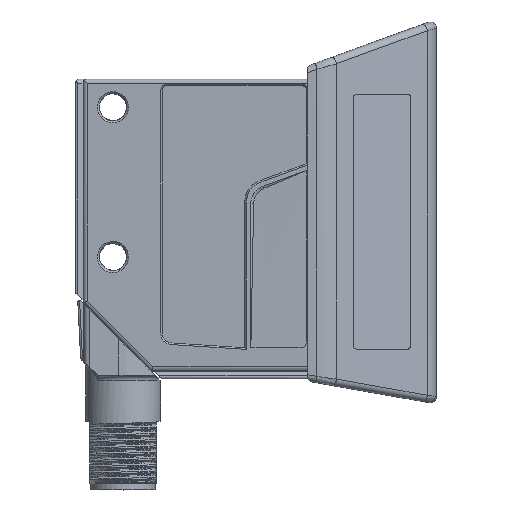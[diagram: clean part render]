
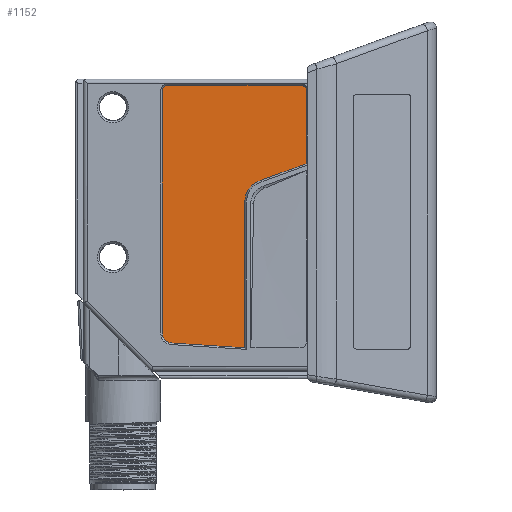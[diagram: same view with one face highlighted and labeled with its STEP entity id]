
A CAD part, top view. The second image highlights one B-rep face of the part: STEP entity #1152.
In plain terms, the highlighted planar face has unit normal (0, 0, 1).
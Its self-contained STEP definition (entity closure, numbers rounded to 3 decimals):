
#720=FACE_OUTER_BOUND('',#2462,.T.);
#1152=ADVANCED_FACE('',(#720),#1430,.F.);
#1430=PLANE('',#6470);
#1565=LINE('',#8587,#1929);
#1569=LINE('',#8595,#1933);
#1671=LINE('',#10219,#2035);
#1675=LINE('',#10313,#2039);
#1677=LINE('',#10347,#2041);
#1929=VECTOR('',#6883,1.);
#1933=VECTOR('',#6889,1.);
#2035=VECTOR('',#7221,1.);
#2039=VECTOR('',#7227,1.);
#2041=VECTOR('',#7231,1.);
#2462=EDGE_LOOP('',(#3291,#3292,#3293,#3294,#3295,#3296,#3297,#3298,#3299,
#3300));
#3291=ORIENTED_EDGE('',*,*,#5399,.T.);
#3292=ORIENTED_EDGE('',*,*,#5402,.T.);
#3293=ORIENTED_EDGE('',*,*,#5404,.T.);
#3294=ORIENTED_EDGE('',*,*,#5406,.T.);
#3295=ORIENTED_EDGE('',*,*,#5407,.T.);
#3296=ORIENTED_EDGE('',*,*,#5225,.T.);
#3297=ORIENTED_EDGE('',*,*,#5229,.T.);
#3298=ORIENTED_EDGE('',*,*,#5232,.T.);
#3299=ORIENTED_EDGE('',*,*,#5409,.T.);
#3300=ORIENTED_EDGE('',*,*,#5410,.T.);
#4601=VERTEX_POINT('',#8586);
#4602=VERTEX_POINT('',#8588);
#4604=VERTEX_POINT('',#8594);
#4605=VERTEX_POINT('',#8604);
#4705=VERTEX_POINT('',#10218);
#4706=VERTEX_POINT('',#10220);
#4707=VERTEX_POINT('',#10224);
#4708=VERTEX_POINT('',#10274);
#4709=VERTEX_POINT('',#10312);
#4710=VERTEX_POINT('',#10346);
#5225=EDGE_CURVE('',#4602,#4601,#1565,.T.);
#5229=EDGE_CURVE('',#4601,#4604,#1569,.T.);
#5232=EDGE_CURVE('',#4604,#4605,#6012,.T.);
#5399=EDGE_CURVE('',#4706,#4705,#1671,.T.);
#5402=EDGE_CURVE('',#4705,#4707,#6035,.T.);
#5404=EDGE_CURVE('',#4707,#4708,#6037,.T.);
#5406=EDGE_CURVE('',#4708,#4709,#1675,.T.);
#5407=EDGE_CURVE('',#4709,#4602,#6038,.T.);
#5409=EDGE_CURVE('',#4605,#4710,#1677,.T.);
#5410=EDGE_CURVE('',#4710,#4706,#6039,.T.);
#6012=B_SPLINE_CURVE_WITH_KNOTS('',3,(#8605,#8606,#8607,#8608,#8609,#8610),
 .UNSPECIFIED.,.F.,.F.,(4,2,4),(0.,0.5,1.),.UNSPECIFIED.);
#6035=B_SPLINE_CURVE_WITH_KNOTS('',3,(#10225,#10226,#10227,#10228,#10229,
#10230,#10231,#10232,#10233,#10234,#10235,#10236,#10237,#10238),
 .UNSPECIFIED.,.F.,.F.,(4,2,2,2,2,2,4),(0.,0.25,0.375,0.5,0.625,0.75,1.),
 .UNSPECIFIED.);
#6037=B_SPLINE_CURVE_WITH_KNOTS('',3,(#10275,#10276,#10277,#10278,#10279,
#10280,#10281,#10282),.UNSPECIFIED.,.F.,.F.,(4,2,2,4),(0.,0.5,0.75,1.),
 .UNSPECIFIED.);
#6038=B_SPLINE_CURVE_WITH_KNOTS('',3,(#10315,#10316,#10317,#10318,#10319,
#10320,#10321,#10322,#10323,#10324),.UNSPECIFIED.,.F.,.F.,(4,2,2,2,4),(0.,
0.25,0.5,0.75,1.),.UNSPECIFIED.);
#6039=B_SPLINE_CURVE_WITH_KNOTS('',3,(#10349,#10350,#10351,#10352,#10353,
#10354),.UNSPECIFIED.,.F.,.F.,(4,2,4),(0.,0.5,1.),.UNSPECIFIED.);
#6470=AXIS2_PLACEMENT_3D('',#10367,#7234,#7235);
#6883=DIRECTION('',(0.94,0.342,0.));
#6889=DIRECTION('',(0.,1.,0.));
#7221=DIRECTION('',(0.,-1.,0.));
#7227=DIRECTION('',(0.,1.,0.));
#7231=DIRECTION('',(-1.,0.,0.));
#7234=DIRECTION('',(0.,0.,-1.));
#7235=DIRECTION('',(-1.,0.,0.));
#8586=CARTESIAN_POINT('',(1.2,10.449,7.2));
#8587=CARTESIAN_POINT('',(-11.758,5.725,7.2));
#8588=CARTESIAN_POINT('',(-5.669,7.945,7.2));
#8594=CARTESIAN_POINT('',(1.2,22.144,7.2));
#8595=CARTESIAN_POINT('',(1.2,1.849,7.2));
#8604=CARTESIAN_POINT('',(0.362,23.,7.2));
#8605=CARTESIAN_POINT('',(1.2,22.144,7.2));
#8606=CARTESIAN_POINT('',(1.2,22.38,7.2));
#8607=CARTESIAN_POINT('',(1.106,22.594,7.2));
#8608=CARTESIAN_POINT('',(0.803,22.904,7.2));
#8609=CARTESIAN_POINT('',(0.593,23.,7.2));
#8610=CARTESIAN_POINT('',(0.362,23.,7.2));
#10218=CARTESIAN_POINT('',(-21.89,-16.449,7.2));
#10219=CARTESIAN_POINT('',(-21.89,1.849,7.2));
#10220=CARTESIAN_POINT('',(-21.89,22.144,7.2));
#10224=CARTESIAN_POINT('',(-20.21,-18.293,7.2));
#10225=CARTESIAN_POINT('',(-21.89,-16.449,7.2));
#10226=CARTESIAN_POINT('',(-21.89,-16.768,7.2));
#10227=CARTESIAN_POINT('',(-21.863,-17.036,7.2));
#10228=CARTESIAN_POINT('',(-21.774,-17.373,7.2));
#10229=CARTESIAN_POINT('',(-21.736,-17.474,7.2));
#10230=CARTESIAN_POINT('',(-21.643,-17.657,7.2));
#10231=CARTESIAN_POINT('',(-21.587,-17.738,7.2));
#10232=CARTESIAN_POINT('',(-21.455,-17.882,7.2));
#10233=CARTESIAN_POINT('',(-21.38,-17.945,7.2));
#10234=CARTESIAN_POINT('',(-21.207,-18.055,7.2));
#10235=CARTESIAN_POINT('',(-21.111,-18.101,7.2));
#10236=CARTESIAN_POINT('',(-20.786,-18.219,7.2));
#10237=CARTESIAN_POINT('',(-20.524,-18.267,7.2));
#10238=CARTESIAN_POINT('',(-20.21,-18.293,7.2));
#10274=CARTESIAN_POINT('',(-8.713,-19.05,7.2));
#10275=CARTESIAN_POINT('',(-20.21,-18.293,7.2));
#10276=CARTESIAN_POINT('',(-20.167,-18.297,7.2));
#10277=CARTESIAN_POINT('',(-18.023,-18.48,7.2));
#10278=CARTESIAN_POINT('',(-14.276,-18.758,7.2));
#10279=CARTESIAN_POINT('',(-12.938,-18.851,7.2));
#10280=CARTESIAN_POINT('',(-10.522,-18.994,7.2));
#10281=CARTESIAN_POINT('',(-9.444,-19.044,7.2));
#10282=CARTESIAN_POINT('',(-8.713,-19.05,7.2));
#10312=CARTESIAN_POINT('',(-8.713,3.57,7.2));
#10313=CARTESIAN_POINT('',(-8.713,1.849,7.2));
#10315=CARTESIAN_POINT('',(-8.713,3.57,7.2));
#10316=CARTESIAN_POINT('',(-8.713,4.196,7.2));
#10317=CARTESIAN_POINT('',(-8.669,4.729,7.2));
#10318=CARTESIAN_POINT('',(-8.463,5.651,7.2));
#10319=CARTESIAN_POINT('',(-8.301,6.039,7.2));
#10320=CARTESIAN_POINT('',(-7.831,6.714,7.2));
#10321=CARTESIAN_POINT('',(-7.524,7.,7.2));
#10322=CARTESIAN_POINT('',(-6.734,7.509,7.2));
#10323=CARTESIAN_POINT('',(-6.252,7.732,7.2));
#10324=CARTESIAN_POINT('',(-5.669,7.945,7.2));
#10346=CARTESIAN_POINT('',(-21.052,23.,7.2));
#10347=CARTESIAN_POINT('',(-10.345,23.,7.2));
#10349=CARTESIAN_POINT('',(-21.052,23.,7.2));
#10350=CARTESIAN_POINT('',(-21.283,23.,7.2));
#10351=CARTESIAN_POINT('',(-21.492,22.904,7.2));
#10352=CARTESIAN_POINT('',(-21.796,22.594,7.2));
#10353=CARTESIAN_POINT('',(-21.89,22.38,7.2));
#10354=CARTESIAN_POINT('',(-21.89,22.144,7.2));
#10367=CARTESIAN_POINT('',(-21.521,-17.81,7.2));
